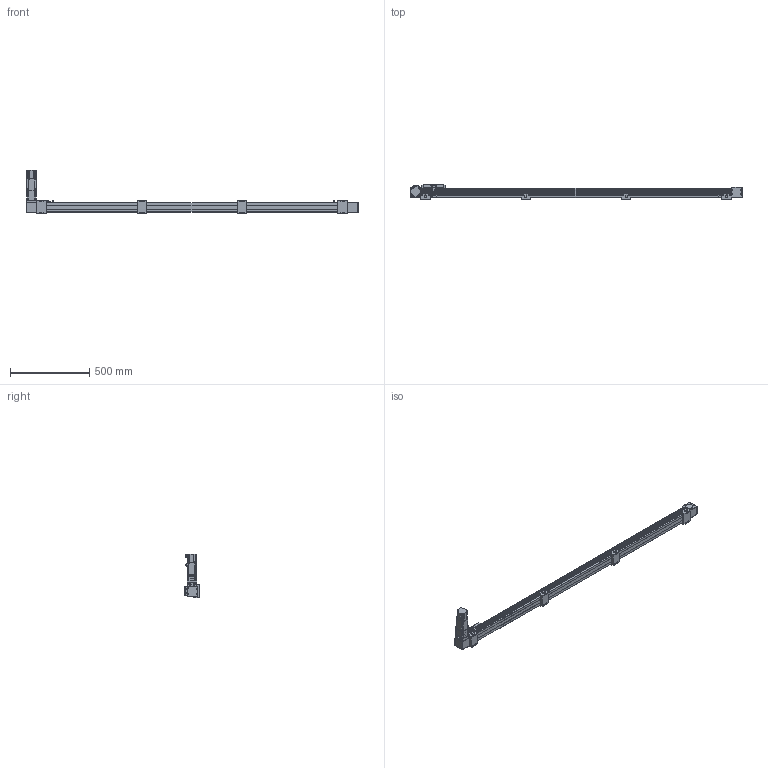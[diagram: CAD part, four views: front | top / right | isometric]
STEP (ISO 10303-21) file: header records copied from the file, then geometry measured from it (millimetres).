
FILE_DESCRIPTION(/* description */ ('STEP AP214'),/* implementation_level */ '2;1');
FILE_NAME(/* name */ 'SK60-P13-S1800-BL-T40-C1-N(0)',/* time_stamp */ '2023-04-06T04:14:10+02:00',/* author */ ('License CC BY-ND 4.0'),/* organization */ ('CADENAS'),/* preprocessor_version */ 'ST-DEVELOPER v19.3',/* originating_system */ 'PARTsolutions',/* authorisation */ ' ');
FILE_SCHEMA (('AUTOMOTIVE_DESIGN {1 0 10303 214 3 1 1}'));
Length unit declared in the file: millimetre
Products named in the file (11): SK60-P13-S1800-BL-T40-C1-N(0); PSC140-sensor; SK60-S450_seat; SK60-S450-BL-C1_slider; SK60_body3; SK60_body6; SK60-BL_body2; T40-p1; SK60_body5; SK60_body4; SK60-S1800-BL-C1_body
Assembly tree (19 placements, depth 2):
  SK60-P13-S1800-BL-T40-C1-N(0)
    PSC140-sensor  x3
    SK60-S450_seat  x4
    SK60-S450-BL-C1_slider
    SK60_body3  x3
    SK60_body6  x2
    SK60-BL_body2  x2
    T40-p1
    SK60_body5
    SK60_body4
    SK60-S1800-BL-C1_body
Bounding box: 2100 x 90 x 278.2 mm (x, y, z)
Volume: 7733069.9 mm3; surface area: 973571.4 mm2
Topology: 19 solids, 23 shells, 922 faces, 2305 edges, 1522 vertices
Faces by surface type: plane 592, cylinder 298, cone 30, torus 2
Full cylindrical faces by diameter (mm): 2.8 x3, 3.3 x4, 4.2 x8, 4.5 x26, 4.6 x3, 4.917 x24, 5 x2, 5.478 x4, 5.5 x27, 6.5 x8, 8 x4, 8.5 x4, 9.988 x4, 10 x16, 13.556 x1, 14 x1, 14.586 x1, 19.692 x1, 38.432 x2, 43 x1, 44 x3, 47 x2, 50 x2
Entity records: 19387 total; most frequent: DIRECTION 3296, CARTESIAN_POINT 3291, ORIENTED_EDGE 3050, EDGE_CURVE 1525, AXIS2_PLACEMENT_3D 1102, LINE 1092, VECTOR 1092, VERTEX_POINT 1077
